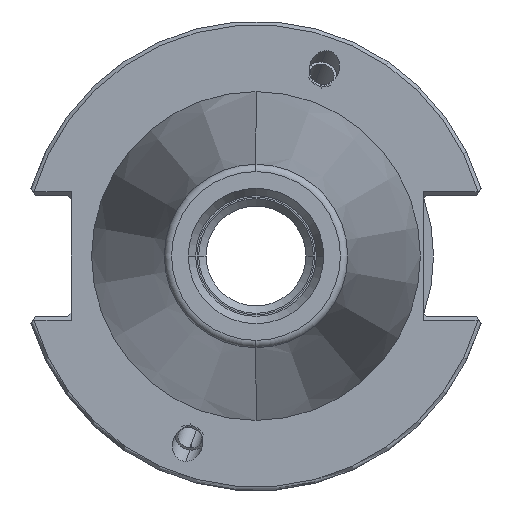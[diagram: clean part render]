
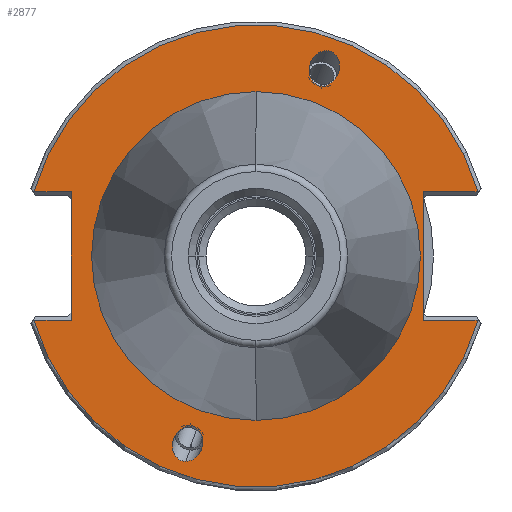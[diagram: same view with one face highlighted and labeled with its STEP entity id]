
A CAD part, left-side view. The second image highlights one B-rep face of the part: STEP entity #2877.
In plain terms, the highlighted planar face has unit normal (-1, 0, 0).
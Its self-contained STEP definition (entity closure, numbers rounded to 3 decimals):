
#116=CARTESIAN_POINT('',(3.175,0.,0.));
#117=DIRECTION('',(1.,0.,0.));
#118=DIRECTION('',(0.,1.,0.));
#119=AXIS2_PLACEMENT_3D('',#116,#117,#118);
#121=CARTESIAN_POINT('',(3.175,0.,0.));
#122=DIRECTION('',(1.,0.,0.));
#123=DIRECTION('',(0.,-1.,0.));
#124=AXIS2_PLACEMENT_3D('',#121,#122,#123);
#126=CARTESIAN_POINT('',(3.175,9.498,-27.766));
#127=CARTESIAN_POINT('',(3.175,9.257,-27.766));
#128=CARTESIAN_POINT('',(3.175,8.727,-27.663));
#129=CARTESIAN_POINT('',(3.175,7.941,-27.117));
#130=CARTESIAN_POINT('',(3.175,7.379,-26.257));
#131=CARTESIAN_POINT('',(3.175,7.151,-25.372));
#132=CARTESIAN_POINT('',(3.175,7.185,-24.486));
#133=CARTESIAN_POINT('',(3.175,7.557,-23.627));
#134=CARTESIAN_POINT('',(3.175,8.223,-23.08));
#135=CARTESIAN_POINT('',(3.175,8.731,-22.978));
#136=CARTESIAN_POINT('',(3.175,8.971,-22.978));
#138=CARTESIAN_POINT('',(3.175,8.971,-22.978));
#139=CARTESIAN_POINT('',(3.175,9.212,-22.978));
#140=CARTESIAN_POINT('',(3.175,9.742,-23.08));
#141=CARTESIAN_POINT('',(3.175,10.528,-23.627));
#142=CARTESIAN_POINT('',(3.175,11.09,-24.486));
#143=CARTESIAN_POINT('',(3.175,11.318,-25.372));
#144=CARTESIAN_POINT('',(3.175,11.284,-26.257));
#145=CARTESIAN_POINT('',(3.175,10.912,-27.117));
#146=CARTESIAN_POINT('',(3.175,10.246,-27.663));
#147=CARTESIAN_POINT('',(3.175,9.738,-27.766));
#148=CARTESIAN_POINT('',(3.175,9.498,-27.766));
#150=CARTESIAN_POINT('',(3.175,-9.498,27.766));
#151=CARTESIAN_POINT('',(3.175,-9.257,27.766));
#152=CARTESIAN_POINT('',(3.175,-8.727,27.663));
#153=CARTESIAN_POINT('',(3.175,-7.941,27.117));
#154=CARTESIAN_POINT('',(3.175,-7.379,26.257));
#155=CARTESIAN_POINT('',(3.175,-7.151,25.372));
#156=CARTESIAN_POINT('',(3.175,-7.185,24.486));
#157=CARTESIAN_POINT('',(3.175,-7.557,23.627));
#158=CARTESIAN_POINT('',(3.175,-8.223,23.08));
#159=CARTESIAN_POINT('',(3.175,-8.731,22.978));
#160=CARTESIAN_POINT('',(3.175,-8.971,22.978));
#162=CARTESIAN_POINT('',(3.175,-8.971,22.978));
#163=CARTESIAN_POINT('',(3.175,-9.212,22.978));
#164=CARTESIAN_POINT('',(3.175,-9.742,23.08));
#165=CARTESIAN_POINT('',(3.175,-10.528,23.627));
#166=CARTESIAN_POINT('',(3.175,-11.09,24.486));
#167=CARTESIAN_POINT('',(3.175,-11.318,25.372));
#168=CARTESIAN_POINT('',(3.175,-11.284,26.257));
#169=CARTESIAN_POINT('',(3.175,-10.912,27.117));
#170=CARTESIAN_POINT('',(3.175,-10.246,27.663));
#171=CARTESIAN_POINT('',(3.175,-9.738,27.766));
#172=CARTESIAN_POINT('',(3.175,-9.498,27.766));
#174=DIRECTION('',(0.,-1.,0.));
#175=VECTOR('',#174,5.017);
#176=CARTESIAN_POINT('',(3.175,30.017,8.69));
#177=LINE('',#176,#175);
#178=DIRECTION('',(0.,-1.,0.));
#179=VECTOR('',#178,7.417);
#180=CARTESIAN_POINT('',(3.175,-22.6,8.69));
#181=LINE('',#180,#179);
#182=DIRECTION('',(0.,1.,0.));
#183=VECTOR('',#182,7.417);
#184=CARTESIAN_POINT('',(3.175,-30.017,-8.69));
#185=LINE('',#184,#183);
#186=DIRECTION('',(0.,1.,0.));
#187=VECTOR('',#186,5.017);
#188=CARTESIAN_POINT('',(3.175,25.,-8.69));
#189=LINE('',#188,#187);
#1545=DIRECTION('',(0.,0.,-1.));
#1546=VECTOR('',#1545,17.38);
#1547=CARTESIAN_POINT('',(3.175,25.,8.69));
#1548=LINE('',#1547,#1546);
#1696=DIRECTION('',(0.,0.,1.));
#1697=VECTOR('',#1696,17.38);
#1698=CARTESIAN_POINT('',(3.175,-22.6,-8.69));
#1699=LINE('',#1698,#1697);
#1780=CARTESIAN_POINT('',(3.175,0.,0.));
#1781=DIRECTION('',(-1.,0.,0.));
#1782=DIRECTION('',(0.,-0.961,0.278));
#1783=AXIS2_PLACEMENT_3D('',#1780,#1781,#1782);
#1854=CARTESIAN_POINT('',(3.175,0.,0.));
#1855=DIRECTION('',(-1.,0.,0.));
#1856=DIRECTION('',(0.,0.961,-0.278));
#1857=AXIS2_PLACEMENT_3D('',#1854,#1855,#1856);
#2324=CARTESIAN_POINT('',(3.175,22.2,0.));
#2325=CARTESIAN_POINT('',(3.175,-22.2,0.));
#2326=VERTEX_POINT('',#2324);
#2327=VERTEX_POINT('',#2325);
#2390=VERTEX_POINT('',#126);
#2391=VERTEX_POINT('',#136);
#2424=CARTESIAN_POINT('',(3.175,30.017,8.69));
#2425=CARTESIAN_POINT('',(3.175,25.,8.69));
#2426=VERTEX_POINT('',#2424);
#2427=VERTEX_POINT('',#2425);
#2432=CARTESIAN_POINT('',(3.175,25.,-8.69));
#2433=CARTESIAN_POINT('',(3.175,30.017,-8.69));
#2434=VERTEX_POINT('',#2432);
#2435=VERTEX_POINT('',#2433);
#2440=CARTESIAN_POINT('',(3.175,-22.6,8.69));
#2441=CARTESIAN_POINT('',(3.175,-30.017,8.69));
#2442=VERTEX_POINT('',#2440);
#2443=VERTEX_POINT('',#2441);
#2448=CARTESIAN_POINT('',(3.175,-30.017,
-8.69));
#2449=CARTESIAN_POINT('',(3.175,-22.6,-8.69));
#2450=VERTEX_POINT('',#2448);
#2451=VERTEX_POINT('',#2449);
#2486=CARTESIAN_POINT('',(3.175,-9.498,27.766));
#2487=VERTEX_POINT('',#2486);
#2488=CARTESIAN_POINT('',(3.175,-8.971,22.978));
#2489=VERTEX_POINT('',#2488);
#2838=CARTESIAN_POINT('',(3.175,0.,0.));
#2839=DIRECTION('',(1.,0.,0.));
#2840=DIRECTION('',(0.,0.,1.));
#2841=AXIS2_PLACEMENT_3D('',#2838,#2839,#2840);
#2842=PLANE('',#2841);
#2844=ORIENTED_EDGE('',*,*,#2843,.F.);
#2846=ORIENTED_EDGE('',*,*,#2845,.F.);
#2848=ORIENTED_EDGE('',*,*,#2847,.F.);
#2850=ORIENTED_EDGE('',*,*,#2849,.F.);
#2852=ORIENTED_EDGE('',*,*,#2851,.F.);
#2854=ORIENTED_EDGE('',*,*,#2853,.F.);
#2856=ORIENTED_EDGE('',*,*,#2855,.F.);
#2858=ORIENTED_EDGE('',*,*,#2857,.F.);
#2859=EDGE_LOOP('',(#2844,#2846,#2848,#2850,#2852,#2854,#2856,#2858));
#2860=FACE_OUTER_BOUND('',#2859,.F.);
#2862=ORIENTED_EDGE('',*,*,#2861,.T.);
#2864=ORIENTED_EDGE('',*,*,#2863,.T.);
#2865=EDGE_LOOP('',(#2862,#2864));
#2866=FACE_BOUND('',#2865,.F.);
#2868=ORIENTED_EDGE('',*,*,#2867,.T.);
#2870=ORIENTED_EDGE('',*,*,#2869,.T.);
#2871=EDGE_LOOP('',(#2868,#2870));
#2872=FACE_BOUND('',#2871,.F.);
#2873=ORIENTED_EDGE('',*,*,#2791,.F.);
#2874=ORIENTED_EDGE('',*,*,#2806,.F.);
#2875=EDGE_LOOP('',(#2873,#2874));
#2876=FACE_BOUND('',#2875,.F.);
#2877=ADVANCED_FACE('',(#2860,#2866,#2872,#2876),#2842,.F.);
#120=CIRCLE('',#119,22.2);
#125=CIRCLE('',#124,22.2);
#137=B_SPLINE_CURVE_WITH_KNOTS('',3,(#126,#127,#128,#129,#130,#131,#132,#133,
#134,#135,#136),.UNSPECIFIED.,.F.,.F.,(4,1,1,1,1,1,1,1,4),(0.,0.125,0.25,
0.375,0.5,0.625,0.75,0.875,1.),.UNSPECIFIED.);
#149=B_SPLINE_CURVE_WITH_KNOTS('',3,(#138,#139,#140,#141,#142,#143,#144,#145,
#146,#147,#148),.UNSPECIFIED.,.F.,.F.,(4,1,1,1,1,1,1,1,4),(0.,0.125,0.25,
0.375,0.5,0.625,0.75,0.875,1.),.UNSPECIFIED.);
#161=B_SPLINE_CURVE_WITH_KNOTS('',3,(#150,#151,#152,#153,#154,#155,#156,#157,
#158,#159,#160),.UNSPECIFIED.,.F.,.F.,(4,1,1,1,1,1,1,1,4),(0.,0.125,0.25,
0.375,0.5,0.625,0.75,0.875,1.),.UNSPECIFIED.);
#173=B_SPLINE_CURVE_WITH_KNOTS('',3,(#162,#163,#164,#165,#166,#167,#168,#169,
#170,#171,#172),.UNSPECIFIED.,.F.,.F.,(4,1,1,1,1,1,1,1,4),(0.,0.125,0.25,
0.375,0.5,0.625,0.75,0.875,1.),.UNSPECIFIED.);
#1784=CIRCLE('',#1783,31.25);
#1858=CIRCLE('',#1857,31.25);
#2791=EDGE_CURVE('',#2326,#2327,#120,.T.);
#2806=EDGE_CURVE('',#2327,#2326,#125,.T.);
#2843=EDGE_CURVE('',#2426,#2427,#177,.T.);
#2845=EDGE_CURVE('',#2443,#2426,#1784,.T.);
#2847=EDGE_CURVE('',#2442,#2443,#181,.T.);
#2849=EDGE_CURVE('',#2451,#2442,#1699,.T.);
#2851=EDGE_CURVE('',#2450,#2451,#185,.T.);
#2853=EDGE_CURVE('',#2435,#2450,#1858,.T.);
#2855=EDGE_CURVE('',#2434,#2435,#189,.T.);
#2857=EDGE_CURVE('',#2427,#2434,#1548,.T.);
#2861=EDGE_CURVE('',#2390,#2391,#137,.T.);
#2863=EDGE_CURVE('',#2391,#2390,#149,.T.);
#2867=EDGE_CURVE('',#2487,#2489,#161,.T.);
#2869=EDGE_CURVE('',#2489,#2487,#173,.T.);
